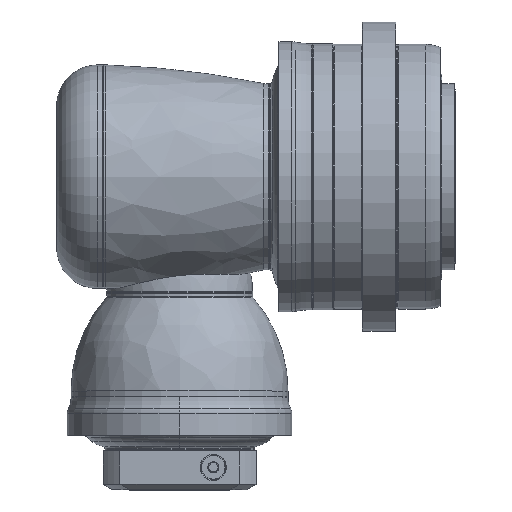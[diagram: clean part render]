
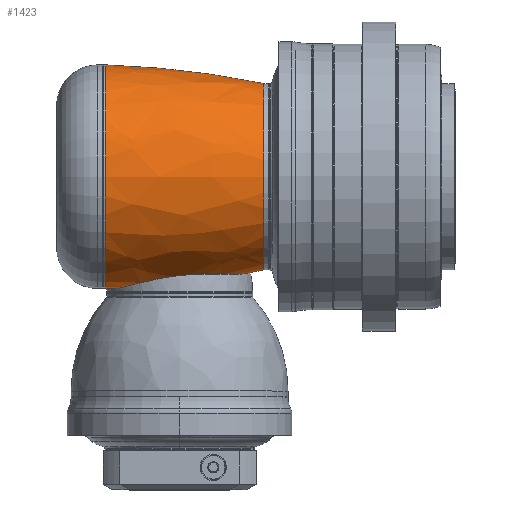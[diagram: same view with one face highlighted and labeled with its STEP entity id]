
A CAD part, top view. The second image highlights one B-rep face of the part: STEP entity #1423.
In plain terms, the highlighted free-form (B-spline) face has degree [3, 3] with [7, 4] control points.
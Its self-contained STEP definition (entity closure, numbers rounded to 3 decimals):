
#172=CARTESIAN_POINT('',(-138.857,1099.364,
0.));
#173=DIRECTION('',(0.,0.,-1.));
#174=DIRECTION('',(0.201,-0.979,0.));
#175=AXIS2_PLACEMENT_3D('',#172,#173,#174);
#182=CARTESIAN_POINT('',(-138.857,-1099.364,
0.));
#183=DIRECTION('',(0.,0.,1.));
#184=DIRECTION('',(0.201,0.979,0.));
#185=AXIS2_PLACEMENT_3D('',#182,#183,#184);
#187=CARTESIAN_POINT('',(-138.857,1099.364,
0.));
#188=DIRECTION('',(0.,0.,-1.));
#189=DIRECTION('',(0.041,-0.999,0.));
#190=AXIS2_PLACEMENT_3D('',#187,#188,#189);
#192=CARTESIAN_POINT('',(113.,0.,0.));
#193=DIRECTION('',(1.,0.,0.));
#194=DIRECTION('',(0.,1.,0.));
#195=AXIS2_PLACEMENT_3D('',#192,#193,#194);
#197=CARTESIAN_POINT('',(-87.976,-149.6,
0.));
#198=CARTESIAN_POINT('',(-86.241,-149.529,3.544));
#199=CARTESIAN_POINT('',(-82.293,-149.11,10.51));
#200=CARTESIAN_POINT('',(-74.783,-147.69,20.488));
#201=CARTESIAN_POINT('',(-66.077,-145.687,29.314));
#202=CARTESIAN_POINT('',(-56.29,-143.305,36.904));
#203=CARTESIAN_POINT('',(-45.531,-140.737,43.157));
#204=CARTESIAN_POINT('',(-33.777,-138.149,48.014));
#205=CARTESIAN_POINT('',(-21.468,-135.788,51.264));
#206=CARTESIAN_POINT('',(-8.904,-133.825,52.852));
#207=CARTESIAN_POINT('',(2.443,-132.473,52.882));
#208=CARTESIAN_POINT('',(12.87,-131.559,51.857));
#209=CARTESIAN_POINT('',(24.353,-130.931,49.458));
#210=CARTESIAN_POINT('',(35.359,-130.692,45.756));
#211=CARTESIAN_POINT('',(45.703,-130.733,40.898));
#212=CARTESIAN_POINT('',(55.063,-130.931,35.118));
#213=CARTESIAN_POINT('',(63.742,-131.164,28.303));
#214=CARTESIAN_POINT('',(71.964,-131.31,20.099));
#215=CARTESIAN_POINT('',(79.444,-131.155,10.316));
#216=CARTESIAN_POINT('',(83.302,-130.737,3.495));
#217=CARTESIAN_POINT('',(84.987,-130.43,0.));
#259=CARTESIAN_POINT('',(-99.,0.,0.));
#260=DIRECTION('',(1.,0.,0.));
#261=DIRECTION('',(0.,1.,0.));
#262=AXIS2_PLACEMENT_3D('',#259,#260,#261);
#1075=CARTESIAN_POINT('',(113.,125.,0.));
#1076=CARTESIAN_POINT('',(-99.,150.,0.));
#1077=VERTEX_POINT('',#1075);
#1078=VERTEX_POINT('',#1076);
#1079=CARTESIAN_POINT('',(113.,-125.,0.));
#1080=VERTEX_POINT('',#1079);
#1081=CARTESIAN_POINT('',(84.987,-130.43,
0.));
#1082=VERTEX_POINT('',#1081);
#1083=CARTESIAN_POINT('',(-87.976,-149.6,
0.));
#1084=CARTESIAN_POINT('',(-99.,-150.,0.));
#1085=VERTEX_POINT('',#1083);
#1086=VERTEX_POINT('',#1084);
#1383=CARTESIAN_POINT('',(-103.273,149.833,
-9.427));
#1384=CARTESIAN_POINT('',(-29.112,147.725,
-9.294));
#1385=CARTESIAN_POINT('',(44.568,139.053,-8.748));
#1386=CARTESIAN_POINT('',(117.185,123.887,-7.794));
#1387=CARTESIAN_POINT('',(-103.273,155.634,82.78));
#1388=CARTESIAN_POINT('',(-29.112,153.444,81.616));
#1389=CARTESIAN_POINT('',(44.568,144.437,76.825));
#1390=CARTESIAN_POINT('',(117.185,128.683,68.445));
#1391=CARTESIAN_POINT('',(-103.273,92.389,150.129));
#1392=CARTESIAN_POINT('',(-29.112,91.089,148.017));
#1393=CARTESIAN_POINT('',(44.568,85.742,139.328));
#1394=CARTESIAN_POINT('',(117.185,76.39,124.132));
#1395=CARTESIAN_POINT('',(-103.273,0.,150.129));
#1396=CARTESIAN_POINT('',(-29.112,0.,
148.017));
#1397=CARTESIAN_POINT('',(44.568,0.,
139.328));
#1398=CARTESIAN_POINT('',(117.185,0.,
124.132));
#1399=CARTESIAN_POINT('',(-103.273,-92.389,
150.129));
#1400=CARTESIAN_POINT('',(-29.112,-91.089,
148.017));
#1401=CARTESIAN_POINT('',(44.568,-85.742,139.328));
#1402=CARTESIAN_POINT('',(117.185,-76.39,124.132));
#1403=CARTESIAN_POINT('',(-103.273,-155.634,
82.78));
#1404=CARTESIAN_POINT('',(-29.112,-153.444,
81.616));
#1405=CARTESIAN_POINT('',(44.568,-144.437,76.825));
#1406=CARTESIAN_POINT('',(117.185,-128.683,68.445));
#1407=CARTESIAN_POINT('',(-103.273,-149.833,
-9.427));
#1408=CARTESIAN_POINT('',(-29.112,-147.725,
-9.294));
#1409=CARTESIAN_POINT('',(44.568,-139.053,
-8.748));
#1410=CARTESIAN_POINT('',(117.185,-123.887,
-7.794));
#1411=(BOUNDED_SURFACE()B_SPLINE_SURFACE(3,3,((#1383,#1384,#1385,#1386),(#1387,
#1388,#1389,#1390),(#1391,#1392,#1393,#1394),(#1395,#1396,#1397,#1398),(#1399,
#1400,#1401,#1402),(#1403,#1404,#1405,#1406),(#1407,#1408,#1409,#1410)),
.UNSPECIFIED.,.F.,.F.,.F.)B_SPLINE_SURFACE_WITH_KNOTS((4,3,4),(4,4),(0.,1.,
2.),(0.,1.),.UNSPECIFIED.)GEOMETRIC_REPRESENTATION_ITEM()RATIONAL_B_SPLINE_SURFACE(((1.19,1.186,1.186,1.19),(
0.939,0.937,0.937,0.939),(
0.939,0.937,0.937,0.939),(
1.19,1.186,1.186,1.19),(
0.939,0.937,0.937,0.939),(
0.939,0.937,0.937,0.939),(
1.19,1.186,1.186,1.19)))REPRESENTATION_ITEM('')SURFACE());
#1412=ORIENTED_EDGE('',*,*,#1365,.T.);
#1414=ORIENTED_EDGE('',*,*,#1413,.F.);
#1415=ORIENTED_EDGE('',*,*,#1373,.T.);
#1417=ORIENTED_EDGE('',*,*,#1416,.F.);
#1418=ORIENTED_EDGE('',*,*,#1369,.F.);
#1420=ORIENTED_EDGE('',*,*,#1419,.T.);
#1421=EDGE_LOOP('',(#1412,#1414,#1415,#1417,#1418,#1420));
#1422=FACE_OUTER_BOUND('',#1421,.F.);
#1423=ADVANCED_FACE('',(#1422),#1411,.T.);
#176=CIRCLE('',#175,1250.);
#186=CIRCLE('',#185,1250.);
#191=CIRCLE('',#190,1250.);
#196=CIRCLE('',#195,125.);
#218=B_SPLINE_CURVE_WITH_KNOTS('',3,(#197,#198,#199,#200,#201,#202,#203,#204,
#205,#206,#207,#208,#209,#210,#211,#212,#213,#214,#215,#216,#217),.UNSPECIFIED.,
.F.,.F.,(4,1,1,1,1,1,1,1,1,1,1,1,1,1,1,1,1,1,4),(0.,0.056,
0.111,0.167,0.222,0.278,
0.333,0.389,0.444,0.5,0.556,
0.611,0.667,0.722,0.778,
0.833,0.889,0.944,1.),.UNSPECIFIED.);
#263=CIRCLE('',#262,150.);
#1365=EDGE_CURVE('',#1080,#1082,#176,.T.);
#1369=EDGE_CURVE('',#1077,#1078,#186,.T.);
#1373=EDGE_CURVE('',#1085,#1086,#191,.T.);
#1413=EDGE_CURVE('',#1085,#1082,#218,.T.);
#1416=EDGE_CURVE('',#1078,#1086,#263,.T.);
#1419=EDGE_CURVE('',#1077,#1080,#196,.T.);
